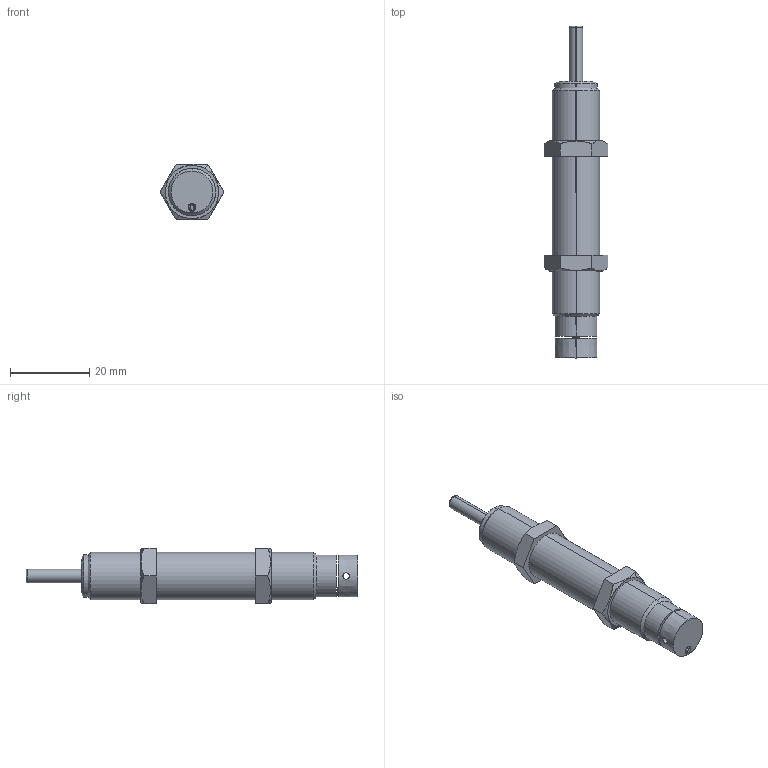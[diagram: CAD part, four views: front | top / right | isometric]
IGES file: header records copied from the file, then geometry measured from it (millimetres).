
Start section: SolidWorks IGES file using analytic representation for surfaces
Bounding box: 16.17 x 84 x 14 mm (x, y, z)
Surface area: 4006.9 mm2 (no closed solid volume)
Topology: 0 solids, 0 shells, 70 faces, 1042 edges, 1042 vertices
Faces by surface type: bspline 36, revolution 34
